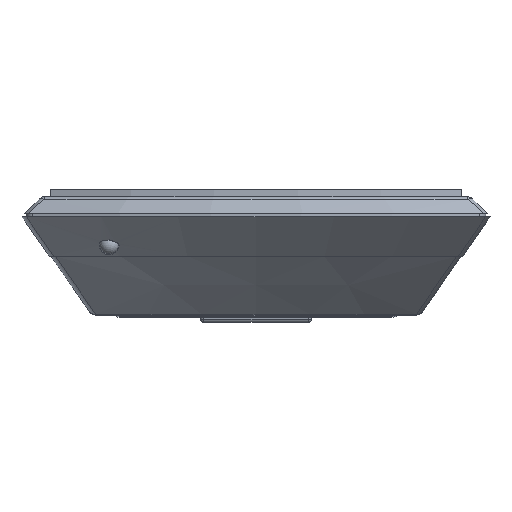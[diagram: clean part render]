
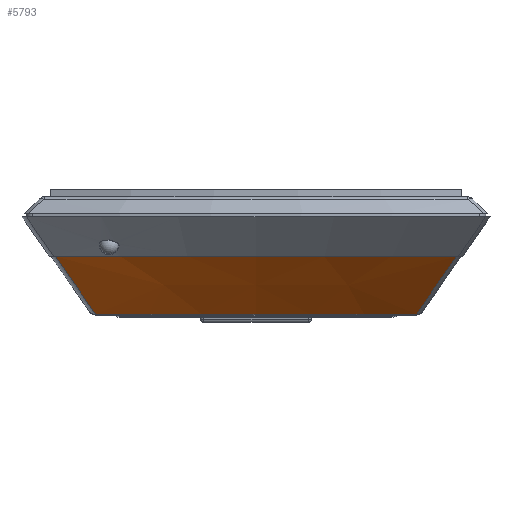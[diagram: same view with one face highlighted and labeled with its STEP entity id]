
A CAD part, top view. The second image highlights one B-rep face of the part: STEP entity #5793.
In plain terms, the highlighted conical face has half-angle 63.144 degrees and reference radius 78.801 mm.
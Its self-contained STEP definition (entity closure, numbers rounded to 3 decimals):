
#1686=CARTESIAN_POINT('',(0.,9.,0.));
#1687=DIRECTION('',(0.,-1.,0.));
#1688=DIRECTION('',(-0.344,0.,-0.939));
#1689=AXIS2_PLACEMENT_3D('',#1686,#1687,#1688);
#1691=CARTESIAN_POINT('',(0.,9.,0.));
#1692=DIRECTION('',(0.,-1.,0.));
#1693=DIRECTION('',(0.,0.,-1.));
#1694=AXIS2_PLACEMENT_3D('',#1691,#1692,#1693);
#1696=CARTESIAN_POINT('',(30.019,9.,-82.009));
#1697=CARTESIAN_POINT('',(29.351,9.96,-80.236));
#1698=CARTESIAN_POINT('',(28.013,11.879,-76.688));
#1699=CARTESIAN_POINT('',(26.009,14.759,-71.366));
#1700=CARTESIAN_POINT('',(24.671,16.678,-67.819));
#1701=CARTESIAN_POINT('',(24.003,17.638,-66.045));
#1703=CARTESIAN_POINT('',(-24.003,17.638,
-66.045));
#1704=CARTESIAN_POINT('',(-24.671,16.678,
-67.819));
#1705=CARTESIAN_POINT('',(-26.009,14.759,
-71.366));
#1706=CARTESIAN_POINT('',(-28.013,11.879,
-76.688));
#1707=CARTESIAN_POINT('',(-29.351,9.96,
-80.236));
#1708=CARTESIAN_POINT('',(-30.019,9.,
-82.009));
#1710=CARTESIAN_POINT('',(0.,17.638,0.));
#1711=DIRECTION('',(0.,-1.,0.));
#1712=DIRECTION('',(-0.342,0.,-0.94));
#1713=AXIS2_PLACEMENT_3D('',#1710,#1711,#1712);
#1715=CARTESIAN_POINT('',(0.,17.638,0.));
#1716=DIRECTION('',(0.,-1.,0.));
#1717=DIRECTION('',(0.,0.,-1.));
#1718=AXIS2_PLACEMENT_3D('',#1715,#1716,#1717);
#3719=CARTESIAN_POINT('',(30.019,9.,-82.009));
#3720=VERTEX_POINT('',#3719);
#3721=CARTESIAN_POINT('',(-30.019,9.,
-82.009));
#3722=CARTESIAN_POINT('',(0.,9.,
-87.331));
#3723=VERTEX_POINT('',#3721);
#3724=VERTEX_POINT('',#3722);
#3727=CARTESIAN_POINT('',(24.003,17.638,-66.045));
#3728=VERTEX_POINT('',#3727);
#4456=VERTEX_POINT('',#1703);
#4457=CARTESIAN_POINT('',(0.,17.638,
-70.272));
#4458=VERTEX_POINT('',#4457);
#5777=CARTESIAN_POINT('',(0.,13.319,0.));
#5778=DIRECTION('',(0.,-1.,0.));
#5779=DIRECTION('',(0.,0.,1.));
#5780=AXIS2_PLACEMENT_3D('',#5777,#5778,#5779);
#5781=CONICAL_SURFACE('',#5780,78.801,63.144);
#5782=ORIENTED_EDGE('',*,*,#5758,.T.);
#5783=ORIENTED_EDGE('',*,*,#5756,.T.);
#5784=ORIENTED_EDGE('',*,*,#4808,.T.);
#5786=ORIENTED_EDGE('',*,*,#5785,.F.);
#5788=ORIENTED_EDGE('',*,*,#5787,.F.);
#5790=ORIENTED_EDGE('',*,*,#5789,.T.);
#5791=EDGE_LOOP('',(#5782,#5783,#5784,#5786,#5788,#5790));
#5792=FACE_OUTER_BOUND('',#5791,.F.);
#5793=ADVANCED_FACE('',(#5792),#5781,.T.);
#1690=CIRCLE('',#1689,87.331);
#1695=CIRCLE('',#1694,87.331);
#1702=B_SPLINE_CURVE_WITH_KNOTS('',3,(#1696,#1697,#1698,#1699,#1700,#1701),
.UNSPECIFIED.,.F.,.F.,(4,1,1,4),(0.,0.333,0.667,1.),
.UNSPECIFIED.);
#1709=B_SPLINE_CURVE_WITH_KNOTS('',3,(#1703,#1704,#1705,#1706,#1707,#1708),
.UNSPECIFIED.,.F.,.F.,(4,1,1,4),(0.,0.333,0.667,1.),
.UNSPECIFIED.);
#1714=CIRCLE('',#1713,70.272);
#1719=CIRCLE('',#1718,70.272);
#4808=EDGE_CURVE('',#3720,#3728,#1702,.T.);
#5756=EDGE_CURVE('',#3724,#3720,#1695,.T.);
#5758=EDGE_CURVE('',#3723,#3724,#1690,.T.);
#5785=EDGE_CURVE('',#4458,#3728,#1719,.T.);
#5787=EDGE_CURVE('',#4456,#4458,#1714,.T.);
#5789=EDGE_CURVE('',#4456,#3723,#1709,.T.);
